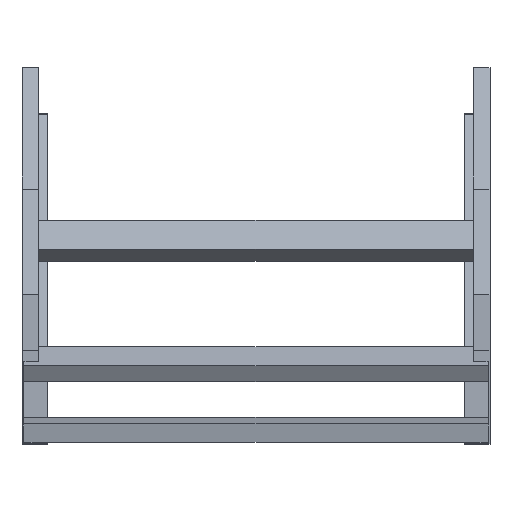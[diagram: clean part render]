
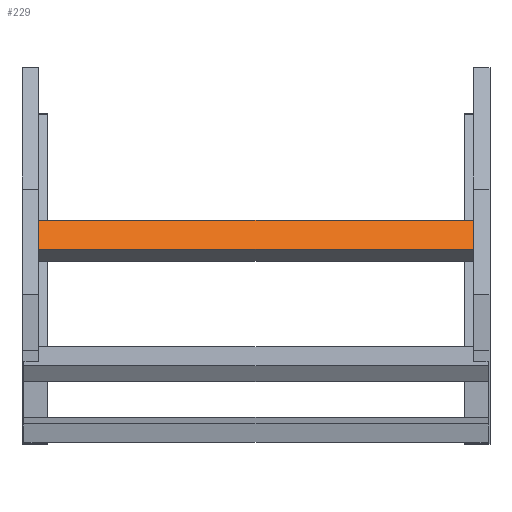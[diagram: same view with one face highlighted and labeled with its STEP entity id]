
A CAD part, top view. The second image highlights one B-rep face of the part: STEP entity #229.
In plain terms, the highlighted planar face has unit normal (0, 0.643, 0.766) as drawn and (0, 1, 0) by its records, which use the part's own axes.
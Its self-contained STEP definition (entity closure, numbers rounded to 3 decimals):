
#16 = ORIENTED_EDGE ( 'NONE', *, *, #525, .T. ) ;
#88 = DIRECTION ( 'NONE',  ( 0., -1., 0. ) ) ;
#102 = EDGE_CURVE ( 'NONE', #1553, #1630, #1225, .T. ) ;
#139 = CARTESIAN_POINT ( 'NONE',  ( -248., 20., 20.25 ) ) ;
#192 = CARTESIAN_POINT ( 'NONE',  ( -248., 20., -20.25 ) ) ;
#208 = EDGE_CURVE ( 'NONE', #1630, #972, #1606, .T. ) ;
#229 = ADVANCED_FACE ( 'NONE', ( #329 ), #599, .F. ) ;
#244 = CARTESIAN_POINT ( 'NONE',  ( 248., 20., -20.25 ) ) ;
#329 = FACE_OUTER_BOUND ( 'NONE', #1554, .T. ) ;
#330 = ORIENTED_EDGE ( 'NONE', *, *, #102, .F. ) ;
#339 = DIRECTION ( 'NONE',  ( 0., 0., -1. ) ) ;
#363 = CARTESIAN_POINT ( 'NONE',  ( 248., 20., 20.25 ) ) ;
#481 = LINE ( 'NONE', #1420, #1518 ) ;
#525 = EDGE_CURVE ( 'NONE', #1553, #800, #1414, .T. ) ;
#584 = CARTESIAN_POINT ( 'NONE',  ( 248., 20., 20.25 ) ) ;
#599 = PLANE ( 'NONE',  #857 ) ;
#628 = VECTOR ( 'NONE', #1356, 1000. ) ;
#689 = DIRECTION ( 'NONE',  ( 0., 0., 1. ) ) ;
#800 = VERTEX_POINT ( 'NONE', #192 ) ;
#811 = ORIENTED_EDGE ( 'NONE', *, *, #208, .F. ) ;
#857 = AXIS2_PLACEMENT_3D ( 'NONE', #864, #88, #339 ) ;
#864 = CARTESIAN_POINT ( 'NONE',  ( 248., 20., 20.25 ) ) ;
#923 = ORIENTED_EDGE ( 'NONE', *, *, #1484, .T. ) ;
#972 = VERTEX_POINT ( 'NONE', #139 ) ;
#1117 = VECTOR ( 'NONE', #689, 1000. ) ;
#1162 = DIRECTION ( 'NONE',  ( 0., 0., 1. ) ) ;
#1225 = LINE ( 'NONE', #1483, #1117 ) ;
#1279 = VECTOR ( 'NONE', #1680, 1000. ) ;
#1356 = DIRECTION ( 'NONE',  ( -1., 0., 0. ) ) ;
#1414 = LINE ( 'NONE', #244, #1279 ) ;
#1420 = CARTESIAN_POINT ( 'NONE',  ( -248., 20., 20.25 ) ) ;
#1483 = CARTESIAN_POINT ( 'NONE',  ( 248., 20., 20.25 ) ) ;
#1484 = EDGE_CURVE ( 'NONE', #800, #972, #481, .T. ) ;
#1518 = VECTOR ( 'NONE', #1162, 1000. ) ;
#1534 = CARTESIAN_POINT ( 'NONE',  ( 248., 20., -20.25 ) ) ;
#1553 = VERTEX_POINT ( 'NONE', #1534 ) ;
#1554 = EDGE_LOOP ( 'NONE', ( #923, #811, #330, #16 ) ) ;
#1606 = LINE ( 'NONE', #584, #628 ) ;
#1630 = VERTEX_POINT ( 'NONE', #363 ) ;
#1680 = DIRECTION ( 'NONE',  ( -1., 0., 0. ) ) ;
